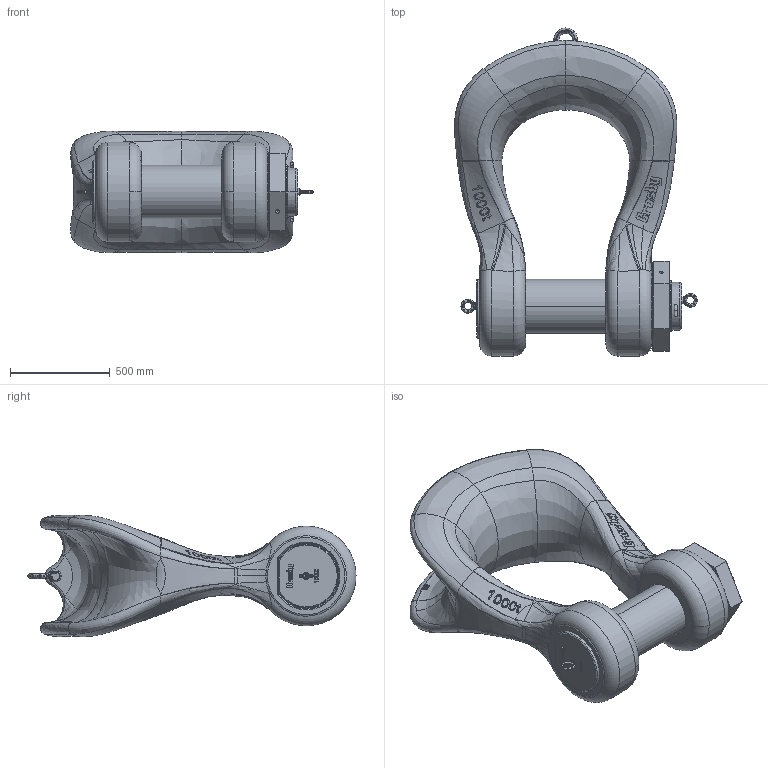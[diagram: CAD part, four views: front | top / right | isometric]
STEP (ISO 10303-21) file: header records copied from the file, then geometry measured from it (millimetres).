
FILE_DESCRIPTION((''),'2;1');
FILE_NAME('1021381_ASM','2024-09-04T11:44:36',('justin.lewis'),('The Crosby Group LLC'),'CREO PARAMETRIC BY PTC INC, 2021304','CREO PARAMETRIC BY PTC INC, 2021304','');
FILE_SCHEMA(('CONFIG_CONTROL_DESIGN','GEOMETRIC_VALIDATION_PROPERTIES_MIM'));
Length unit declared in the file: millimetre
Products named in the file (11): 0829-001000-D000-11; 0829-011000-D000-11; 1045995; 3701533; 5552812; 5552625; 88345; 46872; 1019560_ASM; 3707984; 1021381_ASM
Assembly tree (11 placements, depth 3):
  1021381_ASM
    0829-001000-D000-11
    0829-011000-D000-11
    1045995  x2
    3701533
    1019560_ASM
      5552812
      5552625
      88345
      46872
    3707984
Bounding box: 1218.89 x 1647.07 x 609.68 mm (x, y, z)
Volume: 288181019.6 mm3; surface area: 6518669.5 mm2
Topology: 10 solids, 21 shells, 2528 faces, 9621 edges, 7844 vertices
Faces by surface type: extrusion 1029, plane 847, bspline 329, torus 114, cone 92, cylinder 82, revolution 35
Entity records: 241610 total; most frequent: CARTESIAN_POINT 150232, ORIENTED_EDGE 10772, PRESENTATION_STYLE_ASSIGNMENT 10527, STYLED_ITEM 10527, CURVE_STYLE 8488, DIRECTION 6543, EDGE_CURVE 5409, B_SPLINE_CURVE_WITH_KNOTS 5175
